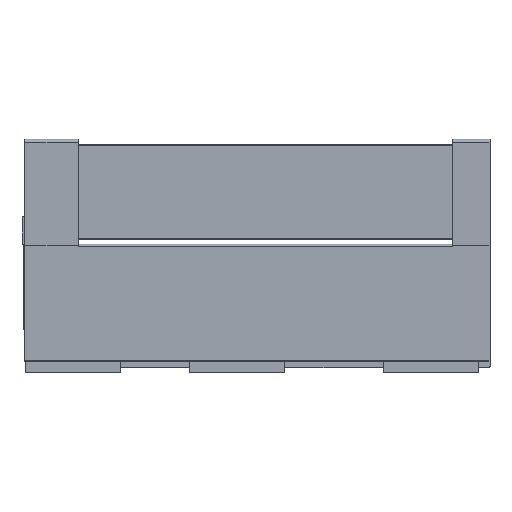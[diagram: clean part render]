
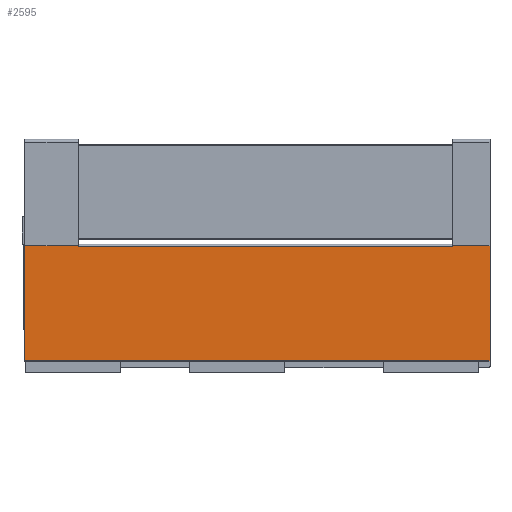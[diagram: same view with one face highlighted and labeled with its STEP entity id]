
A CAD part, left-side view. The second image highlights one B-rep face of the part: STEP entity #2595.
In plain terms, the highlighted planar face has unit normal (-1, 0, 0).
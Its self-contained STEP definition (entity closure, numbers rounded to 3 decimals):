
#102 = VECTOR ( 'NONE', #5699, 1000. ) ;
#103 = LINE ( 'NONE', #5698, #102 ) ;
#175 = VECTOR ( 'NONE', #5628, 1000. ) ;
#176 = LINE ( 'NONE', #5627, #175 ) ;
#240 = VECTOR ( 'NONE', #5554, 1000. ) ;
#241 = LINE ( 'NONE', #5553, #240 ) ;
#265 = VECTOR ( 'NONE', #5527, 1000. ) ;
#266 = LINE ( 'NONE', #5526, #265 ) ;
#314 = VECTOR ( 'NONE', #5466, 1000. ) ;
#332 = LINE ( 'NONE', #5455, #314 ) ;
#554 = VECTOR ( 'NONE', #5211, 1000. ) ;
#555 = LINE ( 'NONE', #5210, #554 ) ;
#657 = VECTOR ( 'NONE', #5082, 1000. ) ;
#659 = LINE ( 'NONE', #5074, #657 ) ;
#1035 = LINE ( 'NONE', #1379, #1038 ) ;
#1038 = VECTOR ( 'NONE', #1372, 1000. ) ;
#1159 = FACE_OUTER_BOUND ( 'NONE', #3464, .T. ) ;
#1372 = DIRECTION ( 'NONE',  ( 0., -1., 0. ) ) ;
#1379 = CARTESIAN_POINT ( 'NONE',  ( -4.1, 440., 80.248 ) ) ;
#1799 = DIRECTION ( 'NONE',  ( 0., 0., -1. ) ) ;
#1802 = DIRECTION ( 'NONE',  ( 1., 0., 0. ) ) ;
#1804 = PLANE ( 'NONE',  #2482 ) ;
#1806 = CARTESIAN_POINT ( 'NONE',  ( -4.1, 440., -28.503 ) ) ;
#2482 = AXIS2_PLACEMENT_3D ( 'NONE', #1806, #1802, #1799 ) ;
#2595 = ADVANCED_FACE ( 'NONE', ( #1159 ), #1804, .F. ) ;
#2691 = EDGE_CURVE ( 'NONE', #5923, #5924, #1035, .T. ) ;
#2932 = EDGE_CURVE ( 'NONE', #5890, #5952, #659, .T. ) ;
#2991 = EDGE_CURVE ( 'NONE', #5952, #5954, #555, .T. ) ;
#3142 = EDGE_CURVE ( 'NONE', #5890, #5879, #332, .T. ) ;
#3169 = EDGE_CURVE ( 'NONE', #5924, #5959, #266, .T. ) ;
#3182 = EDGE_CURVE ( 'NONE', #5954, #5956, #241, .T. ) ;
#3224 = EDGE_CURVE ( 'NONE', #5879, #5959, #176, .T. ) ;
#3260 = EDGE_CURVE ( 'NONE', #5956, #5923, #103, .T. ) ;
#3349 = CARTESIAN_POINT ( 'NONE',  ( -4.1, 440., -28.503 ) ) ;
#3360 = CARTESIAN_POINT ( 'NONE',  ( -4.1, 440., 80.248 ) ) ;
#3393 = CARTESIAN_POINT ( 'NONE',  ( -4.1, 35.3, 80.248 ) ) ;
#3394 = CARTESIAN_POINT ( 'NONE',  ( -4.1, 0., 80.248 ) ) ;
#3422 = CARTESIAN_POINT ( 'NONE',  ( -4.1, 389.3, 80.248 ) ) ;
#3424 = CARTESIAN_POINT ( 'NONE',  ( -4.1, 389.3, 79.266 ) ) ;
#3426 = CARTESIAN_POINT ( 'NONE',  ( -4.1, 35.3, 79.266 ) ) ;
#3429 = CARTESIAN_POINT ( 'NONE',  ( -4.1, 0., -28.503 ) ) ;
#3464 = EDGE_LOOP ( 'NONE', ( #4507, #4508, #4509, #4510, #4511, #4512, #4513, #4514 ) ) ;
#4507 = ORIENTED_EDGE ( 'NONE', *, *, #3182, .F. ) ;
#4508 = ORIENTED_EDGE ( 'NONE', *, *, #2991, .F. ) ;
#4509 = ORIENTED_EDGE ( 'NONE', *, *, #2932, .F. ) ;
#4510 = ORIENTED_EDGE ( 'NONE', *, *, #3142, .T. ) ;
#4511 = ORIENTED_EDGE ( 'NONE', *, *, #3224, .T. ) ;
#4512 = ORIENTED_EDGE ( 'NONE', *, *, #3169, .F. ) ;
#4513 = ORIENTED_EDGE ( 'NONE', *, *, #2691, .F. ) ;
#4514 = ORIENTED_EDGE ( 'NONE', *, *, #3260, .F. ) ;
#5074 = CARTESIAN_POINT ( 'NONE',  ( -4.1, 440., 80.248 ) ) ;
#5082 = DIRECTION ( 'NONE',  ( 0., -1., 0. ) ) ;
#5210 = CARTESIAN_POINT ( 'NONE',  ( -4.1, 389.3, -28.503 ) ) ;
#5211 = DIRECTION ( 'NONE',  ( 0., 0., -1. ) ) ;
#5455 = CARTESIAN_POINT ( 'NONE',  ( -4.1, 440., 78.498 ) ) ;
#5466 = DIRECTION ( 'NONE',  ( 0., 0., -1. ) ) ;
#5526 = CARTESIAN_POINT ( 'NONE',  ( -4.1, 0., -28.503 ) ) ;
#5527 = DIRECTION ( 'NONE',  ( 0., 0., -1. ) ) ;
#5553 = CARTESIAN_POINT ( 'NONE',  ( -4.1, 545., 79.266 ) ) ;
#5554 = DIRECTION ( 'NONE',  ( 0., -1., 0. ) ) ;
#5627 = CARTESIAN_POINT ( 'NONE',  ( -4.1, 440., -28.503 ) ) ;
#5628 = DIRECTION ( 'NONE',  ( 0., -1., 0. ) ) ;
#5698 = CARTESIAN_POINT ( 'NONE',  ( -4.1, 35.3, -28.503 ) ) ;
#5699 = DIRECTION ( 'NONE',  ( 0., 0., 1. ) ) ;
#5879 = VERTEX_POINT ( 'NONE', #3349 ) ;
#5890 = VERTEX_POINT ( 'NONE', #3360 ) ;
#5923 = VERTEX_POINT ( 'NONE', #3393 ) ;
#5924 = VERTEX_POINT ( 'NONE', #3394 ) ;
#5952 = VERTEX_POINT ( 'NONE', #3422 ) ;
#5954 = VERTEX_POINT ( 'NONE', #3424 ) ;
#5956 = VERTEX_POINT ( 'NONE', #3426 ) ;
#5959 = VERTEX_POINT ( 'NONE', #3429 ) ;
